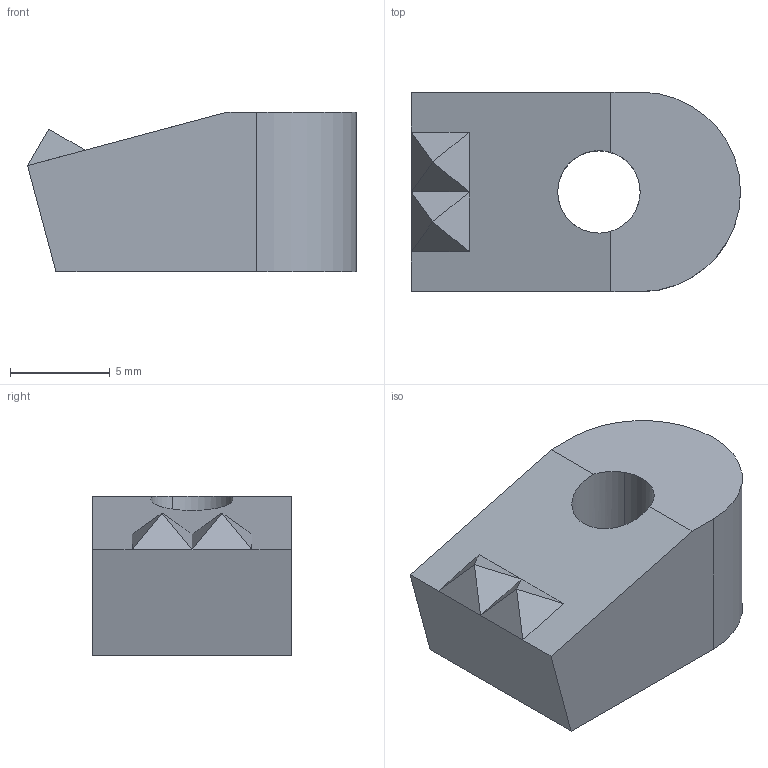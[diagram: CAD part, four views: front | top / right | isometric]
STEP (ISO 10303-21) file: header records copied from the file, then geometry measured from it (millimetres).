
FILE_DESCRIPTION(('CATIA V5 STEP'),'2;1');
FILE_NAME('\\Kjf-102\KJF_TC\Hydraulic_Clamp\Standard\TOGGLE PAD\CP-40\CP-40_-.stp','2020-03-23T08:27:30+00:00',('none'),('none'),'CATIA Version 5 Release 19 SP 6 (IN-10)','CATIA V5 STEP AP214','none');
FILE_SCHEMA(('AUTOMOTIVE_DESIGN { 1 0 10303 214 1 1 1 1 }'));
Length unit declared in the file: millimetre
Products named in the file (1): CP-12_-
Bounding box: 16.5 x 10 x 8 mm (x, y, z)
Volume: 943.8 mm3; surface area: 717.3 mm2
Topology: 1 solids, 1 shells, 20 faces, 46 edges, 28 vertices
Faces by surface type: plane 15, cylinder 5
Entity records: 575 total; most frequent: CARTESIAN_POINT 103, ORIENTED_EDGE 92, DIRECTION 76, EDGE_CURVE 46, VECTOR 34, LINE 34, VERTEX_POINT 28, AXIS2_PLACEMENT_3D 27
